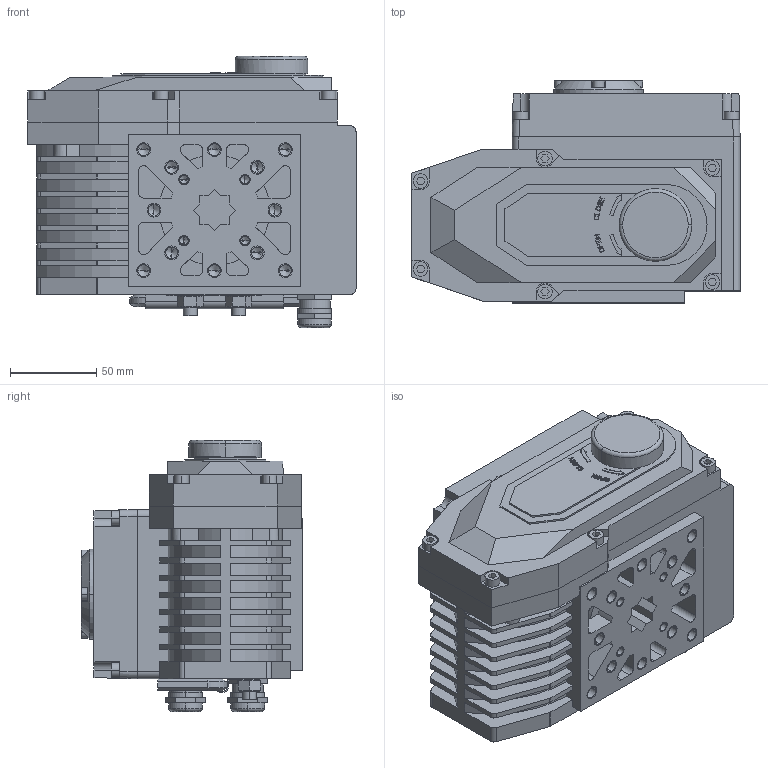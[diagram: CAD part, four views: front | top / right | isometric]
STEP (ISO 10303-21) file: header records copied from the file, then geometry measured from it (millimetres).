
FILE_DESCRIPTION((''),'2;1');
FILE_NAME('ELECTROPRIVOD_ASM','2024-09-01T',('AMD'),(''),'PRO/ENGINEER BY PARAMETRIC TECHNOLOGY CORPORATION, 2008020','PRO/ENGINEER BY PARAMETRIC TECHNOLOGY CORPORATION, 2008020','');
FILE_SCHEMA(('CONFIG_CONTROL_DESIGN'));
Length unit declared in the file: millimetre
Products named in the file (9): DET_1; V-11738-M5; V-11738-M4; DET_2; KREPLENIE; KLUCH; DET_3; G-5915-M8; ELECTROPRIVOD_ASM
Assembly tree (21 placements, depth 2):
  ELECTROPRIVOD_ASM
    DET_1
    V-11738-M5  x10
    V-11738-M4  x4
    DET_2
    KREPLENIE
    KLUCH
    DET_3
    G-5915-M8  x2
Bounding box: 190 x 128.5 x 157 mm (x, y, z)
Volume: 2189268.8 mm3; surface area: 226436.7 mm2
Topology: 21 solids, 53 shells, 1139 faces, 2968 edges, 1958 vertices
Faces by surface type: plane 779, cylinder 300, cone 54, torus 6
Entity records: 28802 total; most frequent: CARTESIAN_POINT 5231, DIRECTION 4832, ORIENTED_EDGE 4792, EDGE_CURVE 2436, VECTOR 1874, LINE 1874, VERTEX_POINT 1618, AXIS2_PLACEMENT_3D 1479
